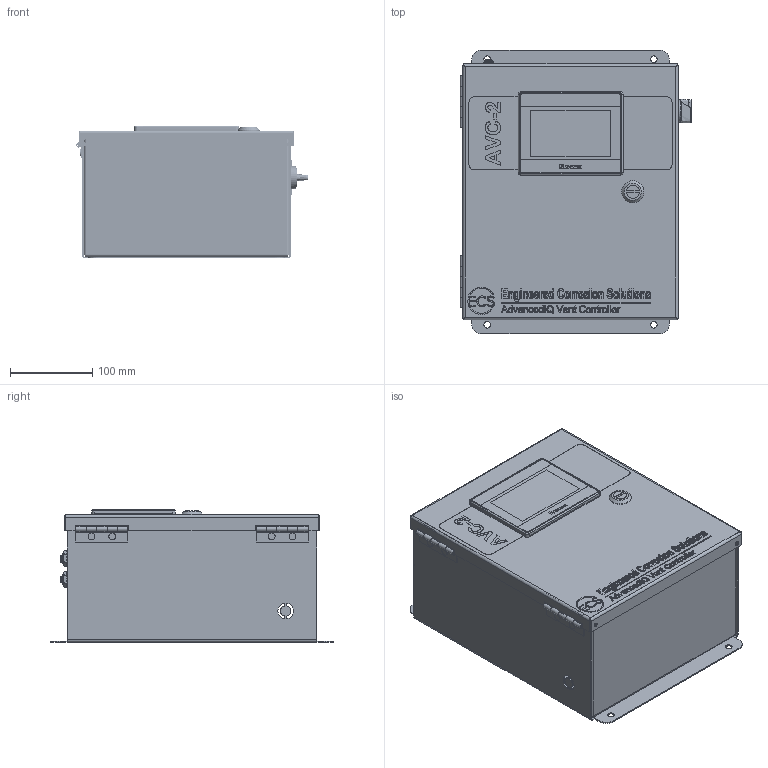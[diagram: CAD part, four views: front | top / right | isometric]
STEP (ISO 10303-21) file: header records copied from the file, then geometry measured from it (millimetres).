
FILE_DESCRIPTION(/* description */ (''),/* implementation_level */ '2;1');
FILE_NAME(/* name */ 'AVC-2.stp',/* time_stamp */ '2024-02-06T10:50:01-06:00',/* author */ ('atroll'),/* organization */ (''),/* preprocessor_version */ 'ST-DEVELOPER v19.2',/* originating_system */ 'Autodesk Inventor 2023',/* authorisation */ '');
FILE_SCHEMA (('AUTOMOTIVE_DESIGN { 1 0 10303 214 3 1 1 }'));
Products named in the file (1): AVC-2_Simplify
Bounding box: 282.65 x 346.2 x 161.55 mm (x, y, z)
Volume: 899161.1 mm3; surface area: 975746.6 mm2
Topology: 10 solids, 23 shells, 5949 faces, 15999 edges, 10317 vertices
Faces by surface type: plane 4078, cylinder 911, bspline 647, cone 122, torus 114, sphere 77
Full cylindrical faces by diameter (mm): 0.434 x1, 0.61 x9, 1.219 x9, 1.4 x3, 1.5 x2, 1.8 x2, 2.156 x4, 2.157 x2, 2.286 x4, 2.5 x4, 2.54 x2, 2.8 x2, 3 x18, 3.175 x4, 3.2 x4, 3.307 x4, 3.5 x4, 3.7 x4, 3.962 x2, 3.969 x4, 4.2 x1, 4.3 x1, 4.826 x4, 5.156 x4, 5.47 x4, 5.6 x4, 6.35 x4, 6.553 x4, 6.6 x2, 7.137 x2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
Entity records: 214663 total; most frequent: CARTESIAN_POINT 62864, ORIENTED_EDGE 31978, DIRECTION 27222, EDGE_CURVE 15989, LINE 11874, VECTOR 11874, VERTEX_POINT 10317, AXIS2_PLACEMENT_3D 7674
